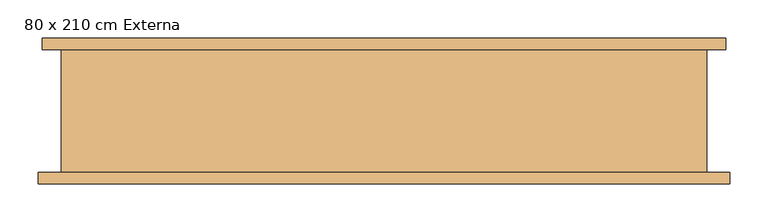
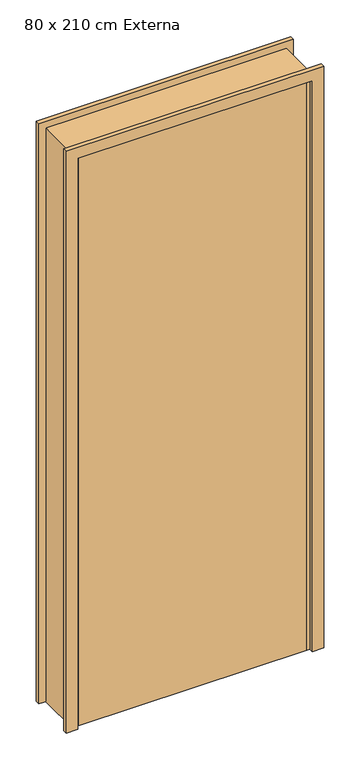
"""IFC4 building model written with IfcOpenShell, lengths in millimetres: door geometry, POR_PM_GIRO_1FL : 80 x 210 cm Externa."""

from ifc_helpers import new_model, si_unit, frame, origin, origin_with_axes, place, context, project, spatial, polyline, outline, extrude, faceted_brep, source, transform, mapped, element, save


def door_80_x_210_cm_externa_36d8658d(model_context):
    return source(origin(), model_context, "Body", "SolidModel", [
        extrude(outline(polyline([(0.0, -445.0), (0.0, -405.0), (2105.0, -405.0), (2105.0, 405.0), (0.0, 405.0), (0.0, 445.0), (2145.0, 445.0), (2145.0, -445.0), (0.0, -445.0)])), frame((0.0, 80.0, 0.0), z_axis=(0.0, 1.0, 0.0), x_axis=(0.0, 0.0, 1.0)), (0.0, 0.0, 1.0), 15.0),
        extrude(outline(polyline([(0.0, -450.0), (0.0, -410.0), (2110.0, -410.0), (2110.0, 410.0), (0.0, 410.0), (0.0, 450.0), (2150.0, 450.0), (2150.0, -450.0), (0.0, -450.0)])), frame((0.0, -95.0, 0.0), z_axis=(0.0, 1.0, 0.0), x_axis=(0.0, 0.0, 1.0)), (0.0, 0.0, 1.0), 15.0),
        faceted_brep([(390.0, -45.0, 0.0), (390.0, 80.0, 0.0), (420.0, 80.0, 0.0), (420.0, -80.0, 0.0), (400.0, -80.0, 0.0), (400.0, -45.0, 0.0), (390.0, -45.0, 2090.0), (390.0, 80.0, 2090.0), (-390.0, 80.0, 2090.0), (-390.0, 80.0, 0.0), (-420.0, 80.0, 0.0), (-420.0, 80.0, 2120.0), (420.0, 80.0, 2120.0), (420.0, -80.0, 2120.0), (-420.0, -80.0, 2120.0), (-420.0, -80.0, 0.0), (-400.0, -80.0, 0.0), (-400.0, -80.0, 2100.0), (400.0, -80.0, 2100.0), (400.0, -45.0, 2100.0), (-400.0, -45.0, 2100.0), (-400.0, -45.0, 0.0), (-390.0, -45.0, 0.0), (-390.0, -45.0, 2090.0)], [[[0, 1, 2, 3, 4, 5]], [[1, 0, 6, 7]], [[2, 1, 7, 8, 9, 10, 11, 12]], [[3, 2, 12, 13]], [[4, 3, 13, 14, 15, 16, 17, 18]], [[5, 4, 18, 19]], [[0, 5, 19, 20, 21, 22, 23, 6]], [[8, 23, 22, 9]], [[22, 21, 16, 15, 10, 9]], [[14, 11, 10, 15]], [[20, 17, 16, 21]], [[7, 6, 23, 8]], [[13, 12, 11, 14]], [[19, 18, 17, 20]]]),
        extrude(outline(polyline([(-400.0, -45.0), (400.0, -45.0), (400.0, -80.0), (-400.0, -80.0), (-400.0, -45.0)])), origin_with_axes(), (0.0, 0.0, 1.0), 2100.0),
    ])


if __name__ == "__main__":
    model = new_model("IFC4")
    model_context = context("Model", 3, world=origin())
    ifc_project = project(units=[si_unit("LENGTHUNIT", "METRE", prefix="MILLI")], contexts=[model_context])
    site = spatial("IfcSite", under=ifc_project)
    building = spatial("IfcBuilding", under=site)
    placement = place(None, origin())
    door_80_x_210_cm_externa_shape = door_80_x_210_cm_externa_36d8658d(model_context)
    element("IfcDoor", 1, ObjectType="POR_PM_GIRO_1FL : 80 x 210 cm Externa", at=placement, inside=building, context=model_context, shape_type="MappedRepresentation", body=[
        mapped(door_80_x_210_cm_externa_shape, transform((0.0, 0.0, 0.0), x_axis=(1.0, 0.0, 0.0), y_axis=(0.0, 1.0, 0.0), z_axis=(0.0, 0.0, 1.0))),
    ])
    save(model, "model.ifc")
